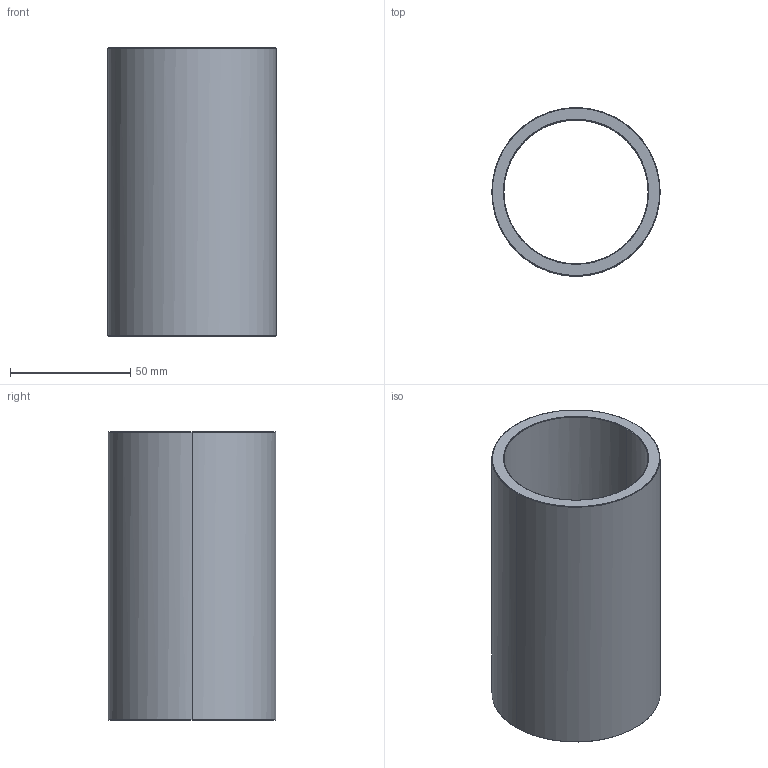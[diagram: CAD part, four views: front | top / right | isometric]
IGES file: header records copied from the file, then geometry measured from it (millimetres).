
Start section: Write IGES format                                    datakit 2008 (c)
Global section: file name: Unknown; native system: DATAKIT Converter; preprocessor: Unknown; author: Unknown; organization: Unknown; date: 950613.180003; units: millimetre
Bounding box: 70 x 69.87 x 120 mm (x, y, z)
Surface area: 50955.2 mm2 (no closed solid volume)
Topology: 0 solids, 0 shells, 14 faces, 56 edges, 56 vertices
Faces by surface type: revolution 12, bspline 2
